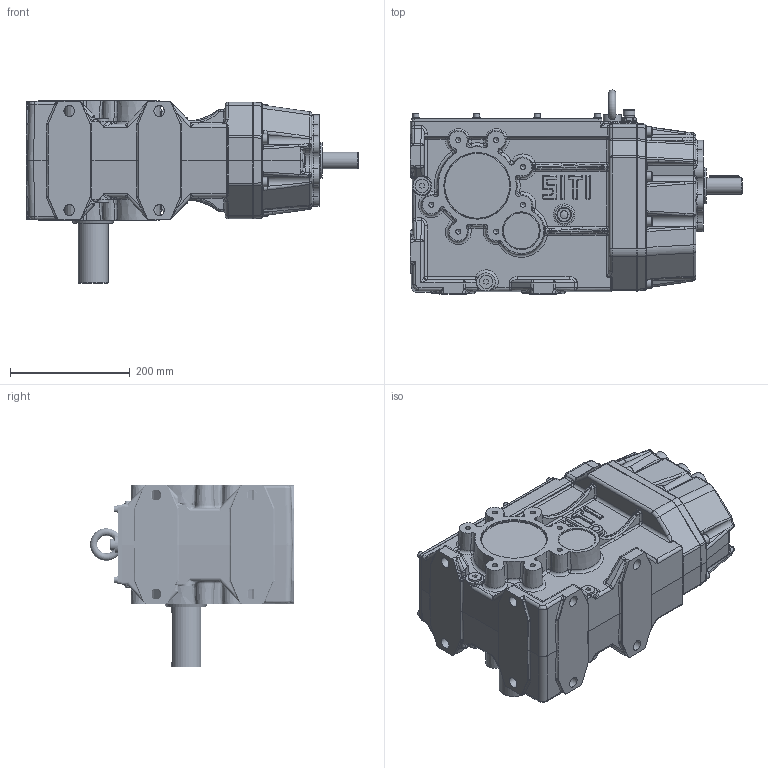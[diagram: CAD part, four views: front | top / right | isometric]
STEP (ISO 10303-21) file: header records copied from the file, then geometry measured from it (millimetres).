
FILE_DESCRIPTION((''),'2;1');
FILE_NAME('C:\Users\m.piscopiello.SITIRIDUTTORI\Desktop\3D x SITO\BH 100\BH_100 MS-A.stp','2013-05-02T11:21:29',('m.piscopiello'),(''),'Autodesk Inventor 2012','Autodesk Inventor 2012','');
FILE_SCHEMA(('CONFIG_CONTROL_DESIGN'));
Length unit declared in the file: millimetre
Products named in the file (1): BH_100 MS-A
Bounding box: 553.5 x 339.97 x 305 mm (x, y, z)
Volume: 7040772.3 mm3; surface area: 1396770.3 mm2
Topology: 45 solids, 50 shells, 3375 faces, 7998 edges, 4730 vertices
Faces by surface type: cylinder 1038, plane 937, bspline 720, torus 297, cone 229, sphere 154
Full cylindrical faces by diameter (mm): 4.917 x8, 5 x1, 6 x17, 6.4 x9, 6.647 x8, 7 x8, 8.376 x22, 10 x20, 10.106 x3, 11 x10, 12 x8, 12.5 x8, 13.835 x1, 14.95 x1, 16 x9, 16.6 x7, 17 x1, 18 x8, 19 x1, 19.5 x1, 20 x1, 28 x1, 30 x4, 37.5 x1, 39.377 x1, 39.977 x2, 50 x1, 52 x1, 54.765 x1, 57 x1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
Entity records: 121077 total; most frequent: CARTESIAN_POINT 45703, DIRECTION 14627, ORIENTED_EDGE 14600, EDGE_CURVE 7300, AXIS2_PLACEMENT_3D 6030, VERTEX_POINT 4561, EDGE_LOOP 3985, STYLED_ITEM 3420
